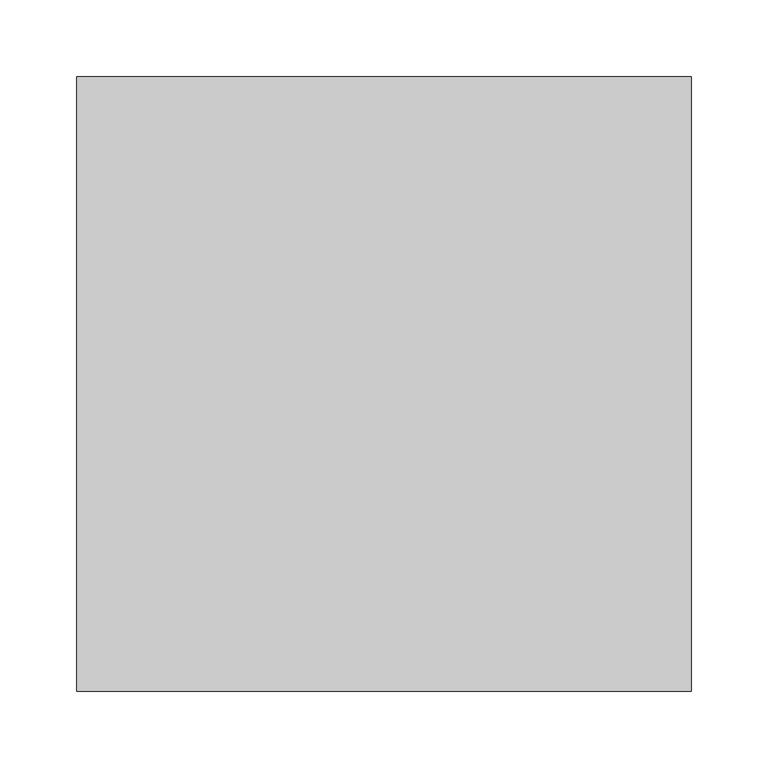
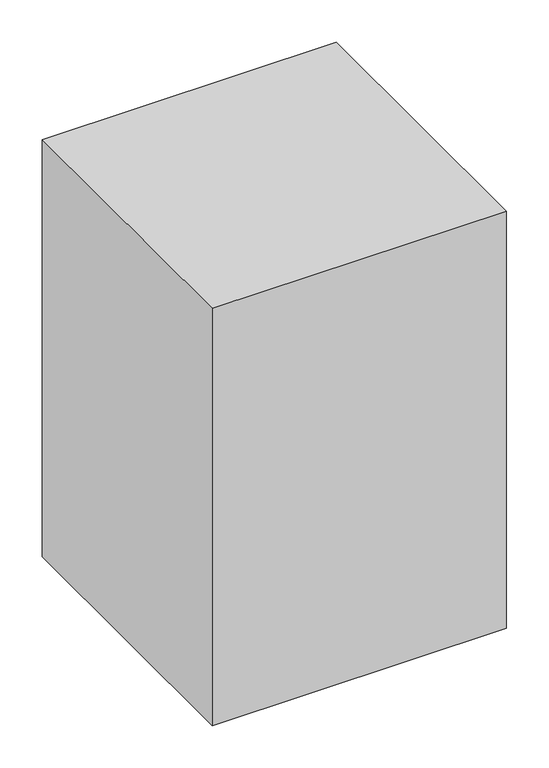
"""IFC4 building model written with IfcOpenShell, lengths in millimetres: proxy geometry, ▲GM_Зона обслуживания : Тип."""

from ifc_helpers import new_model, si_unit, origin, origin_with_axes, place, context, project, spatial, polyline, outline, extrude, source, transform, mapped, element, save


def generic_models_a45427ab(model_context):
    return source(origin(), model_context, "Body", "SweptSolid", [
        extrude(outline(polyline([(400.0, -400.0), (0.0, -400.0), (0.0, 0.0), (400.0, 0.0), (400.0, -400.0)])), origin_with_axes(), (0.0, 0.0, 1.0), 600.0),
    ])


if __name__ == "__main__":
    model = new_model("IFC4")
    model_context = context("Model", 3, world=origin())
    ifc_project = project(units=[si_unit("LENGTHUNIT", "METRE", prefix="MILLI")], contexts=[model_context])
    site = spatial("IfcSite", under=ifc_project)
    building = spatial("IfcBuilding", under=site)
    placement = place(None, origin())
    generic_models_shape = generic_models_a45427ab(model_context)
    element("IfcBuildingElementProxy", 1, Name="▲GM_Зона обслуживания : Тип", ObjectType="▲GM_Зона обслуживания : Тип", at=placement, inside=building, context=model_context, shape_type="MappedRepresentation", body=[
        mapped(generic_models_shape, transform((0.0, 0.0, 0.0), x_axis=(1.0, 0.0, 0.0), y_axis=(0.0, 1.0, 0.0), z_axis=(0.0, 0.0, 1.0))),
    ])
    save(model, "model.ifc")
